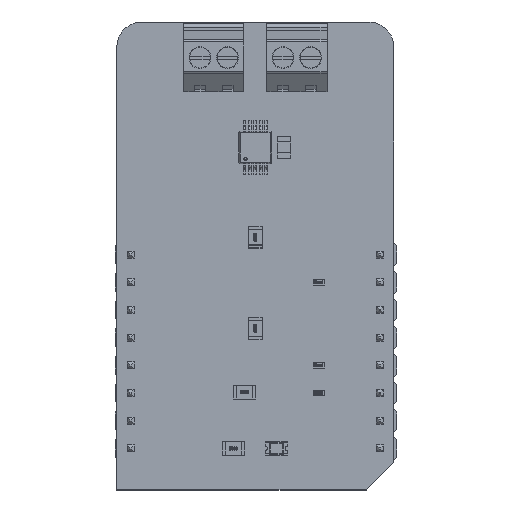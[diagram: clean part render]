
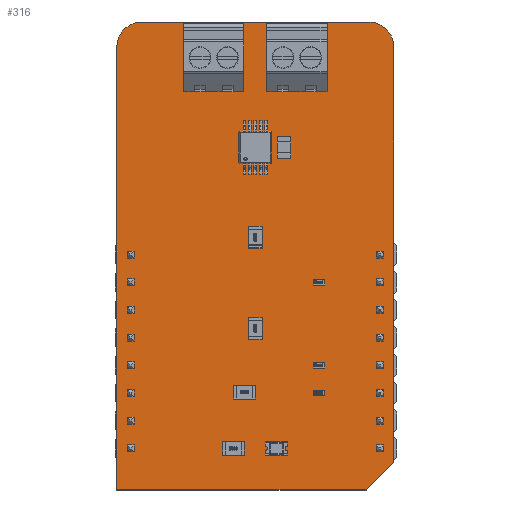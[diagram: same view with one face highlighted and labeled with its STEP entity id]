
A CAD part, top view. The second image highlights one B-rep face of the part: STEP entity #316.
In plain terms, the highlighted planar face has unit normal (0, 0, 1).
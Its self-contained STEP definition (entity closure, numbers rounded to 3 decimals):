
#87 = VERTEX_POINT('',#88);
#88 = CARTESIAN_POINT('',(-1.27,-3.81,0.));
#94 = EDGE_CURVE('',#87,#95,#97,.T.);
#95 = VERTEX_POINT('',#96);
#96 = CARTESIAN_POINT('',(-1.27,36.83,0.));
#97 = LINE('',#98,#99);
#98 = CARTESIAN_POINT('',(-1.27,-3.81,0.));
#99 = VECTOR('',#100,1.);
#100 = DIRECTION('',(0.,1.,0.));
#125 = EDGE_CURVE('',#95,#126,#128,.T.);
#126 = VERTEX_POINT('',#127);
#127 = CARTESIAN_POINT('',(1.016,39.116,0.));
#128 = CIRCLE('',#129,2.288);
#129 = AXIS2_PLACEMENT_3D('',#130,#131,#132);
#130 = CARTESIAN_POINT('',(1.018,36.828,0.));
#131 = DIRECTION('',(0.,0.,-1.));
#132 = DIRECTION('',(-1.,0.001,0.));
#158 = EDGE_CURVE('',#126,#159,#161,.T.);
#159 = VERTEX_POINT('',#160);
#160 = CARTESIAN_POINT('',(21.844,39.116,0.));
#161 = LINE('',#162,#163);
#162 = CARTESIAN_POINT('',(1.016,39.116,0.));
#163 = VECTOR('',#164,1.);
#164 = DIRECTION('',(1.,0.,0.));
#189 = EDGE_CURVE('',#159,#190,#192,.T.);
#190 = VERTEX_POINT('',#191);
#191 = CARTESIAN_POINT('',(24.13,36.83,0.));
#192 = CIRCLE('',#193,2.288);
#193 = AXIS2_PLACEMENT_3D('',#194,#195,#196);
#194 = CARTESIAN_POINT('',(21.842,36.828,0.));
#195 = DIRECTION('',(0.,0.,-1.));
#196 = DIRECTION('',(0.001,1.,0.));
#222 = EDGE_CURVE('',#190,#223,#225,.T.);
#223 = VERTEX_POINT('',#224);
#224 = CARTESIAN_POINT('',(24.13,-1.27,0.));
#225 = LINE('',#226,#227);
#226 = CARTESIAN_POINT('',(24.13,36.83,0.));
#227 = VECTOR('',#228,1.);
#228 = DIRECTION('',(0.,-1.,0.));
#253 = EDGE_CURVE('',#223,#254,#256,.T.);
#254 = VERTEX_POINT('',#255);
#255 = CARTESIAN_POINT('',(21.59,-3.81,0.));
#256 = LINE('',#257,#258);
#257 = CARTESIAN_POINT('',(24.13,-1.27,0.));
#258 = VECTOR('',#259,1.);
#259 = DIRECTION('',(-0.707,-0.707,0.));
#284 = EDGE_CURVE('',#254,#87,#285,.T.);
#285 = LINE('',#286,#287);
#286 = CARTESIAN_POINT('',(21.59,-3.81,0.));
#287 = VECTOR('',#288,1.);
#288 = DIRECTION('',(-1.,0.,0.));
#316 = ADVANCED_FACE('',(#317),#326,.T.);
#317 = FACE_BOUND('',#318,.F.);
#318 = EDGE_LOOP('',(#319,#320,#321,#322,#323,#324,#325));
#319 = ORIENTED_EDGE('',*,*,#94,.T.);
#320 = ORIENTED_EDGE('',*,*,#125,.T.);
#321 = ORIENTED_EDGE('',*,*,#158,.T.);
#322 = ORIENTED_EDGE('',*,*,#189,.T.);
#323 = ORIENTED_EDGE('',*,*,#222,.T.);
#324 = ORIENTED_EDGE('',*,*,#253,.T.);
#325 = ORIENTED_EDGE('',*,*,#284,.T.);
#326 = PLANE('',#327);
#327 = AXIS2_PLACEMENT_3D('',#328,#329,#330);
#328 = CARTESIAN_POINT('',(-1.27,-3.81,0.));
#329 = DIRECTION('',(0.,0.,1.));
#330 = DIRECTION('',(1.,0.,0.));
